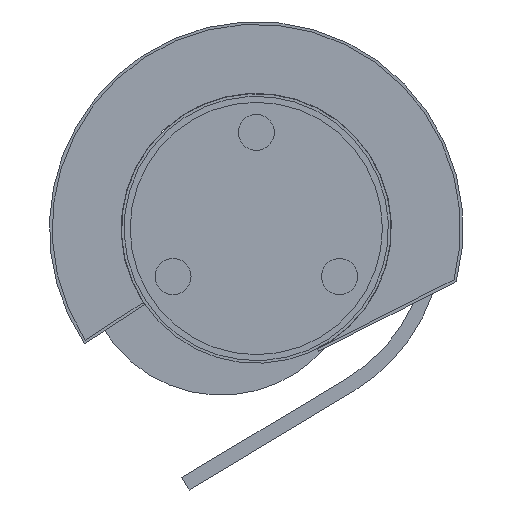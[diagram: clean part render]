
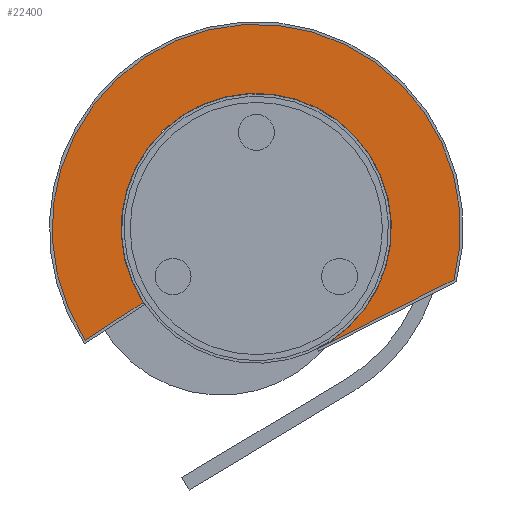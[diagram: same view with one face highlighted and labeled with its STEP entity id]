
A CAD part, front view. The second image highlights one B-rep face of the part: STEP entity #22400.
In plain terms, the highlighted planar face has unit normal (0, -1, 0) as drawn and (0, 1, 0) by its records, which use the part's own axes.
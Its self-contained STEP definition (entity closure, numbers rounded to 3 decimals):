
#3023 = DIRECTION ( 'NONE',  ( 0., 0., 1. ) ) ;
#3592 = VERTEX_POINT ( 'NONE', #16282 ) ;
#5089 = ORIENTED_EDGE ( 'NONE', *, *, #21710, .T. ) ;
#5344 = EDGE_CURVE ( 'NONE', #55046, #46649, #100857, .T. ) ;
#5384 = AXIS2_PLACEMENT_3D ( 'NONE', #66572, #82397, #18181 ) ;
#5557 = CARTESIAN_POINT ( 'NONE',  ( -114.488, -195., -125.668 ) ) ;
#5901 = CARTESIAN_POINT ( 'NONE',  ( 0., -195., -112.5 ) ) ;
#12430 = CARTESIAN_POINT ( 'NONE',  ( 0., -195., 0. ) ) ;
#13790 = ORIENTED_EDGE ( 'NONE', *, *, #5344, .F. ) ;
#15490 = AXIS2_PLACEMENT_3D ( 'NONE', #79671, #62817, #55039 ) ;
#16282 = CARTESIAN_POINT ( 'NONE',  ( 170., -195., 0. ) ) ;
#18181 = DIRECTION ( 'NONE',  ( 0., 0., 1. ) ) ;
#18619 = EDGE_CURVE ( 'NONE', #3592, #55046, #75291, .T. ) ;
#20101 = CARTESIAN_POINT ( 'NONE',  ( 0., -195., 0. ) ) ;
#20445 = DIRECTION ( 'NONE',  ( 0., -1., 0. ) ) ;
#21710 = EDGE_CURVE ( 'NONE', #49978, #48591, #78532, .T. ) ;
#22400 = ADVANCED_FACE ( 'N', ( #77219 ), #62921, .F. ) ;
#34668 = VERTEX_POINT ( 'NONE', #104285 ) ;
#38071 = VERTEX_POINT ( 'NONE', #46995 ) ;
#40116 = CIRCLE ( 'NONE', #5384, 112.5 ) ;
#45028 = LINE ( 'NONE', #12430, #85347 ) ;
#45177 = DIRECTION ( 'NONE',  ( 0., 0., 1. ) ) ;
#46649 = VERTEX_POINT ( 'NONE', #5557 ) ;
#46995 = CARTESIAN_POINT ( 'NONE',  ( 0., -195., 112.5 ) ) ;
#47215 = ORIENTED_EDGE ( 'NONE', *, *, #18619, .F. ) ;
#47223 = VECTOR ( 'NONE', #61725, 1000. ) ;
#48591 = VERTEX_POINT ( 'NONE', #89431 ) ;
#49978 = VERTEX_POINT ( 'NONE', #5901 ) ;
#54104 = CARTESIAN_POINT ( 'NONE',  ( 0., -195., 0. ) ) ;
#54991 = ORIENTED_EDGE ( 'NONE', *, *, #57446, .F. ) ;
#55039 = DIRECTION ( 'NONE',  ( 0., 0., 1. ) ) ;
#55046 = VERTEX_POINT ( 'NONE', #100738 ) ;
#55142 = DIRECTION ( 'NONE',  ( 0., 0., -1. ) ) ;
#57446 = EDGE_CURVE ( 'NONE', #34668, #3592, #45028, .T. ) ;
#61369 = CARTESIAN_POINT ( 'NONE',  ( 12.21, -195., -111.835 ) ) ;
#61725 = DIRECTION ( 'NONE',  ( -0.994, 0., -0.109 ) ) ;
#62817 = DIRECTION ( 'NONE',  ( 0., -1., 0. ) ) ;
#62921 = PLANE ( 'NONE',  #66090 ) ;
#62978 = ORIENTED_EDGE ( 'NONE', *, *, #80429, .T. ) ;
#63401 = DIRECTION ( 'NONE',  ( 0., -1., 0. ) ) ;
#65690 = ORIENTED_EDGE ( 'NONE', *, *, #69497, .T. ) ;
#66090 = AXIS2_PLACEMENT_3D ( 'NONE', #54104, #103359, #55142 ) ;
#66572 = CARTESIAN_POINT ( 'NONE',  ( 0., -195., 0. ) ) ;
#67883 = DIRECTION ( 'NONE',  ( 1., 0., 0. ) ) ;
#69497 = EDGE_CURVE ( 'NONE', #48591, #46649, #91288, .T. ) ;
#70329 = AXIS2_PLACEMENT_3D ( 'NONE', #83806, #83459, #3023 ) ;
#71172 = CARTESIAN_POINT ( 'NONE',  ( 0., -195., 0. ) ) ;
#71678 = CIRCLE ( 'NONE', #70329, 112.5 ) ;
#74508 = EDGE_LOOP ( 'NONE', ( #47215, #54991, #62978, #75505, #5089, #65690, #13790 ) ) ;
#75291 = CIRCLE ( 'NONE', #96711, 170. ) ;
#75505 = ORIENTED_EDGE ( 'NONE', *, *, #79318, .T. ) ;
#77219 = FACE_OUTER_BOUND ( 'NONE', #74508, .T. ) ;
#78532 = CIRCLE ( 'NONE', #103215, 112.5 ) ;
#79318 = EDGE_CURVE ( 'NONE', #38071, #49978, #40116, .T. ) ;
#79671 = CARTESIAN_POINT ( 'NONE',  ( 0., -195., 0. ) ) ;
#80429 = EDGE_CURVE ( 'NONE', #34668, #38071, #71678, .T. ) ;
#82397 = DIRECTION ( 'NONE',  ( 0., -1., 0. ) ) ;
#83459 = DIRECTION ( 'NONE',  ( 0., -1., 0. ) ) ;
#83806 = CARTESIAN_POINT ( 'NONE',  ( 0., -195., 0. ) ) ;
#85347 = VECTOR ( 'NONE', #67883, 1000. ) ;
#87998 = DIRECTION ( 'NONE',  ( 0., 0., 1. ) ) ;
#89431 = CARTESIAN_POINT ( 'NONE',  ( 12.21, -195., -111.835 ) ) ;
#91288 = LINE ( 'NONE', #61369, #47223 ) ;
#96711 = AXIS2_PLACEMENT_3D ( 'NONE', #71172, #63401, #87998 ) ;
#100738 = CARTESIAN_POINT ( 'NONE',  ( 0., -195., 170. ) ) ;
#100857 = CIRCLE ( 'NONE', #15490, 170. ) ;
#103215 = AXIS2_PLACEMENT_3D ( 'NONE', #20101, #20445, #45177 ) ;
#103359 = DIRECTION ( 'NONE',  ( 0., -1., 0. ) ) ;
#104285 = CARTESIAN_POINT ( 'NONE',  ( 112.5, -195., 0. ) ) ;
